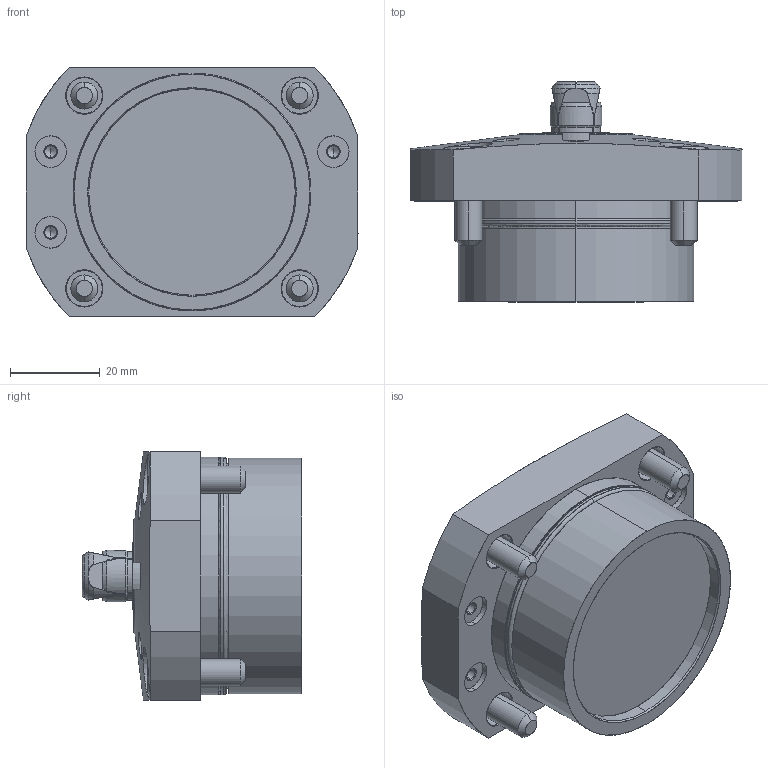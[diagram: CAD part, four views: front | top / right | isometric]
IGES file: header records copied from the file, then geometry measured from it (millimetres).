
Start section: SolidWorks IGES file using analytic representation for surfaces
Global section: file name: L:\電子カタログ-3Ｄ\SFH\ｱｾﾝﾌﾞﾘ\SFH3120.IGS; native system: SolidWorks 2010; preprocessor: SolidWorks 2010; author: D214; date: 101104.082059; units: millimetre
Bounding box: 74 x 49 x 55.5 mm (x, y, z)
Surface area: 29427.4 mm2 (no closed solid volume)
Topology: 0 solids, 0 shells, 564 faces, 7275 edges, 7247 vertices
Faces by surface type: revolution 318, bspline 246
